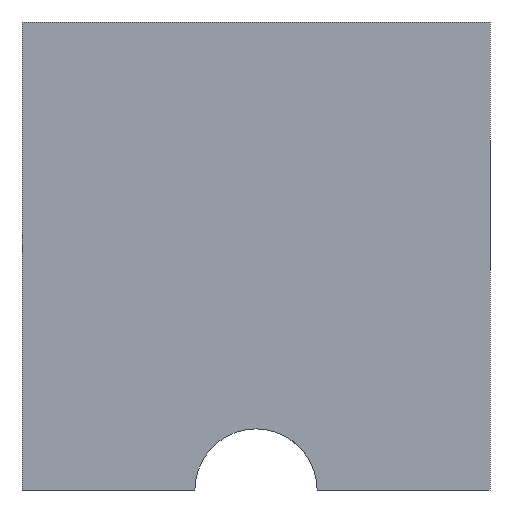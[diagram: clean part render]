
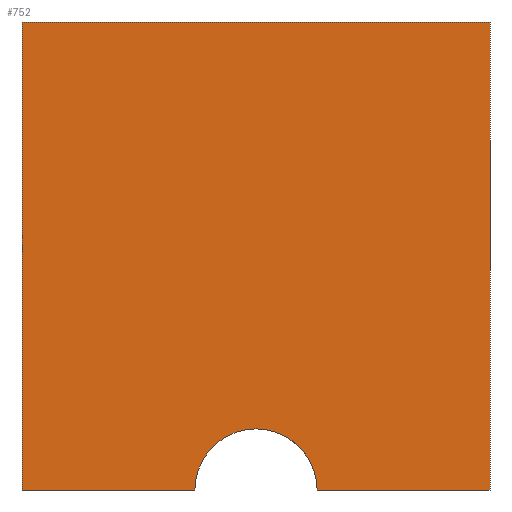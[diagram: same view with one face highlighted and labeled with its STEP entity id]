
A CAD part, front view. The second image highlights one B-rep face of the part: STEP entity #752.
In plain terms, the highlighted planar face has unit normal (0, -1, 0).
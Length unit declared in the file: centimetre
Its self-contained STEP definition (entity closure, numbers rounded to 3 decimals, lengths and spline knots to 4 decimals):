
#23 = CARTESIAN_POINT ( 'NONE',  ( 0., 0., 1000. ) ) ;
#43 = VECTOR ( 'NONE', #430, 100. ) ;
#67 = VERTEX_POINT ( 'NONE', #267 ) ;
#69 = DIRECTION ( 'NONE',  ( 0., 0., 1. ) ) ;
#70 = EDGE_CURVE ( 'NONE', #449, #157, #857, .T. ) ;
#98 = EDGE_CURVE ( 'NONE', #923, #565, #645, .T. ) ;
#101 = CARTESIAN_POINT ( 'NONE',  ( 1000., 0., 1000. ) ) ;
#122 = CARTESIAN_POINT ( 'NONE',  ( 0., 0., 1000. ) ) ;
#132 = CARTESIAN_POINT ( 'NONE',  ( 0., 0., 1000. ) ) ;
#133 = CARTESIAN_POINT ( 'NONE',  ( 0., 0., 1000. ) ) ;
#151 = CARTESIAN_POINT ( 'NONE',  ( 0., 0., 0. ) ) ;
#157 = VERTEX_POINT ( 'NONE', #432 ) ;
#161 = ORIENTED_EDGE ( 'NONE', *, *, #583, .T. ) ;
#166 = ORIENTED_EDGE ( 'NONE', *, *, #463, .F. ) ;
#169 = EDGE_CURVE ( 'NONE', #565, #67, #646, .T. ) ;
#192 = CARTESIAN_POINT ( 'NONE',  ( 500., 0., 130.6337 ) ) ;
#206 = DIRECTION ( 'NONE',  ( 0., 0., -1. ) ) ;
#207 = VERTEX_POINT ( 'NONE', #365 ) ;
#211 = DIRECTION ( 'NONE',  ( 1., 0., 0. ) ) ;
#220 = AXIS2_PLACEMENT_3D ( 'NONE', #23, #235, #891 ) ;
#227 = FACE_OUTER_BOUND ( 'NONE', #234, .T. ) ;
#234 = EDGE_LOOP ( 'NONE', ( #748, #161, #817, #906, #416, #166, #394 ) ) ;
#235 = DIRECTION ( 'NONE',  ( 0., 1., 0. ) ) ;
#243 = VECTOR ( 'NONE', #206, 100. ) ;
#247 = AXIS2_PLACEMENT_3D ( 'NONE', #706, #712, #69 ) ;
#248 = VECTOR ( 'NONE', #450, 100. ) ;
#267 = CARTESIAN_POINT ( 'NONE',  ( 1000., 0., 0. ) ) ;
#306 = LINE ( 'NONE', #101, #248 ) ;
#329 = DIRECTION ( 'NONE',  ( 0., 0., 1. ) ) ;
#352 = CARTESIAN_POINT ( 'NONE',  ( 0., 0., 0. ) ) ;
#365 = CARTESIAN_POINT ( 'NONE',  ( 1000., 0., 1000. ) ) ;
#378 = VECTOR ( 'NONE', #766, 100. ) ;
#394 = ORIENTED_EDGE ( 'NONE', *, *, #70, .T. ) ;
#396 = LINE ( 'NONE', #132, #378 ) ;
#397 = CARTESIAN_POINT ( 'NONE',  ( 500., 0., 0. ) ) ;
#413 = DIRECTION ( 'NONE',  ( 0., 1., 0. ) ) ;
#416 = ORIENTED_EDGE ( 'NONE', *, *, #812, .F. ) ;
#430 = DIRECTION ( 'NONE',  ( 1., 0., 0. ) ) ;
#432 = CARTESIAN_POINT ( 'NONE',  ( 0., 0., 0. ) ) ;
#443 = CARTESIAN_POINT ( 'NONE',  ( 369.3663, 0., 0. ) ) ;
#449 = VERTEX_POINT ( 'NONE', #122 ) ;
#450 = DIRECTION ( 'NONE',  ( 0., 0., -1. ) ) ;
#463 = EDGE_CURVE ( 'NONE', #449, #207, #396, .T. ) ;
#551 = CARTESIAN_POINT ( 'NONE',  ( 630.6337, 0., 0. ) ) ;
#565 = VERTEX_POINT ( 'NONE', #551 ) ;
#583 = EDGE_CURVE ( 'NONE', #758, #923, #597, .T. ) ;
#592 = EDGE_CURVE ( 'NONE', #157, #758, #699, .T. ) ;
#597 = CIRCLE ( 'NONE', #247, 130.6337 ) ;
#645 = CIRCLE ( 'NONE', #719, 130.6337 ) ;
#646 = LINE ( 'NONE', #352, #43 ) ;
#699 = LINE ( 'NONE', #151, #742 ) ;
#706 = CARTESIAN_POINT ( 'NONE',  ( 500., 0., 0. ) ) ;
#712 = DIRECTION ( 'NONE',  ( 0., 1., 0. ) ) ;
#719 = AXIS2_PLACEMENT_3D ( 'NONE', #397, #413, #329 ) ;
#725 = PLANE ( 'NONE',  #220 ) ;
#742 = VECTOR ( 'NONE', #211, 100. ) ;
#748 = ORIENTED_EDGE ( 'NONE', *, *, #592, .T. ) ;
#752 = ADVANCED_FACE ( 'NONE', ( #227 ), #725, .F. ) ;
#758 = VERTEX_POINT ( 'NONE', #443 ) ;
#766 = DIRECTION ( 'NONE',  ( 1., 0., 0. ) ) ;
#812 = EDGE_CURVE ( 'NONE', #207, #67, #306, .T. ) ;
#817 = ORIENTED_EDGE ( 'NONE', *, *, #98, .T. ) ;
#857 = LINE ( 'NONE', #133, #243 ) ;
#891 = DIRECTION ( 'NONE',  ( 0., 0., 1. ) ) ;
#906 = ORIENTED_EDGE ( 'NONE', *, *, #169, .T. ) ;
#923 = VERTEX_POINT ( 'NONE', #192 ) ;
